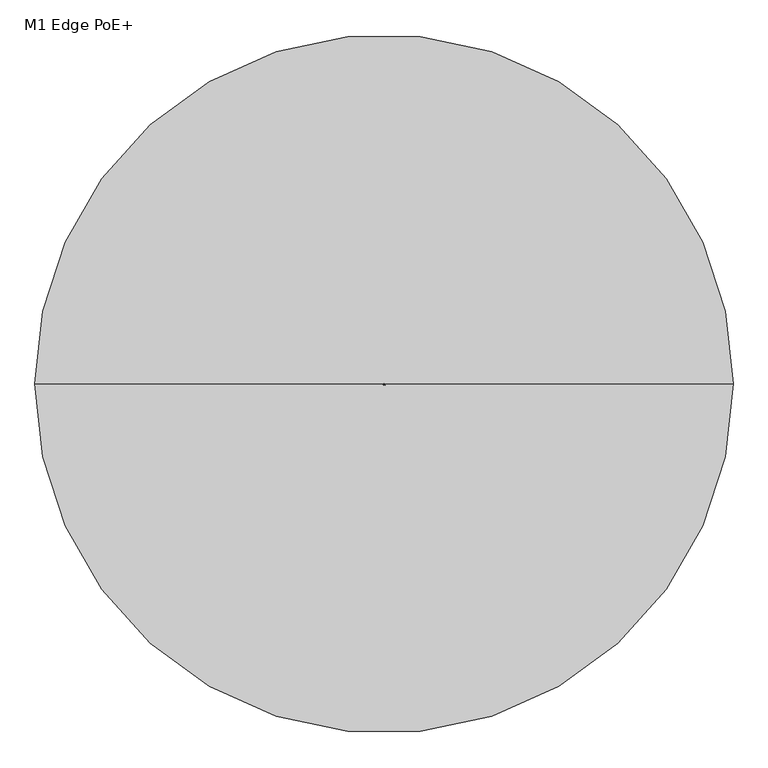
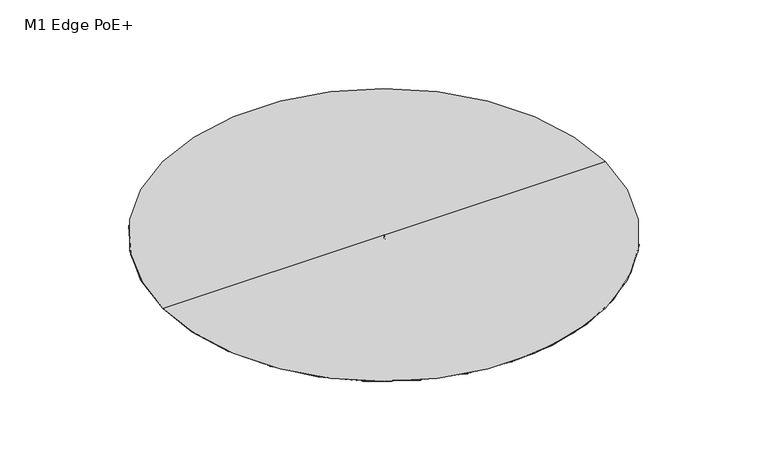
"""IFC4 building model written with IfcOpenShell, lengths in millimetres: proxy geometry, M1 Edge PoE+ : Tripod."""

from ifc_helpers import new_model, si_unit, point, frame, frame_2d, origin, origin_2d, place, context, project, spatial, polyline, circle_curve, ellipse_curve, trimmed, segment, composite_curve, outline, extrude, faceted_brep, source, transform, mapped, element, save
from ifc_brep_helpers import plane_surface, cylinder_surface, revolved_surface, advanced_brep


def m1_edge_poe_0bd1f5fe(model_context):
    return source(origin(), model_context, "Body", "SolidModel", [
        advanced_brep(
        [(0.0, 28.675, 1318.766295), (0.0, 117.675, 1318.766295), (0.0, 117.675, 1382.8178575), (0.0, 28.675, 1382.8178575), (0.0, 25.175, 1318.766295), (0.0, 121.175, 1318.766295), (0.0, 25.175, 1308.7452013), (0.0, 121.175, 1308.7452013), (0.0, 15.675, 1308.7452013), (0.0, 130.675, 1308.7452013), (0.0, 15.675, 1248.7178575), (0.0, 130.675, 1248.7178575), (0.0, 73.175, 1248.7178575), (0.0, 73.175, 1382.8178575)],
        [
            (0, 1, circle_curve(frame((0.0, 73.175, 1318.766295), z_axis=(0.0, 0.0, 1.0), x_axis=(0.0, 1.0, 0.0)), 44.5)),
            (1, 2),
            (2, 3, circle_curve(frame((0.0, 73.175, 1382.8178575), z_axis=(0.0, 0.0, -1.0), x_axis=(0.0, 1.0, 0.0)), 44.5)),
            (3, 0),
            (1, 0, circle_curve(frame((0.0, 73.175, 1318.766295), z_axis=(0.0, 0.0, 1.0), x_axis=(0.0, 1.0, 0.0)), 44.5)),
            (3, 2, circle_curve(frame((0.0, 73.175, 1382.8178575), z_axis=(0.0, 0.0, -1.0), x_axis=(0.0, 1.0, 0.0)), 44.5)),
            (4, 5, circle_curve(frame((0.0, 73.175, 1318.766295), z_axis=(0.0, 0.0, 1.0), x_axis=(0.0, 1.0, 0.0)), 48.0)),
            (5, 1),
            (0, 4),
            (5, 4, circle_curve(frame((0.0, 73.175, 1318.766295), z_axis=(0.0, 0.0, 1.0), x_axis=(0.0, 1.0, 0.0)), 48.0)),
            (6, 7, circle_curve(frame((0.0, 73.175, 1308.7452013), z_axis=(0.0, 0.0, 1.0), x_axis=(0.0, 1.0, 0.0)), 48.0)),
            (7, 5),
            (4, 6),
            (7, 6, circle_curve(frame((0.0, 73.175, 1308.7452013), z_axis=(0.0, 0.0, 1.0), x_axis=(0.0, 1.0, 0.0)), 48.0)),
            (8, 9, circle_curve(frame((0.0, 73.175, 1308.7452013), z_axis=(0.0, 0.0, 1.0), x_axis=(0.0, 1.0, 0.0)), 57.5)),
            (9, 7),
            (6, 8),
            (9, 8, circle_curve(frame((0.0, 73.175, 1308.7452013), z_axis=(0.0, 0.0, 1.0), x_axis=(0.0, 1.0, 0.0)), 57.5)),
            (10, 11, circle_curve(frame((0.0, 73.175, 1248.7178575), z_axis=(0.0, 0.0, 1.0), x_axis=(0.0, 1.0, 0.0)), 57.5)),
            (11, 9),
            (8, 10),
            (11, 10, circle_curve(frame((0.0, 73.175, 1248.7178575), z_axis=(0.0, 0.0, 1.0), x_axis=(0.0, 1.0, 0.0)), 57.5)),
            (12, 11),
            (10, 12),
            (2, 13),
            (13, 3),
        ],
        [
            cylinder_surface(frame((0.0, 73.175, 1650.6978148), z_axis=(0.0, 0.0, -1.0), x_axis=(0.0, 1.0, 0.0)), 44.5),
            plane_surface(frame((0.0, 73.175, 1318.766295), z_axis=(0.0, 0.0, 1.0), x_axis=(0.0, 1.0, 0.0))),
            cylinder_surface(frame((0.0, 73.175, 1650.6978148), z_axis=(0.0, 0.0, -1.0), x_axis=(0.0, 1.0, 0.0)), 48.0),
            plane_surface(frame((0.0, 73.175, 1308.7452013), z_axis=(0.0, 0.0, 1.0), x_axis=(0.0, 1.0, 0.0))),
            cylinder_surface(frame((0.0, 73.175, 1650.6978148), z_axis=(0.0, 0.0, -1.0), x_axis=(0.0, 1.0, 0.0)), 57.5),
            plane_surface(frame((0.0, 73.175, 1248.7178575), z_axis=(0.0, 0.0, -1.0), x_axis=(0.0, 1.0, 0.0))),
            plane_surface(frame((0.0, 73.175, 1382.8178575), z_axis=(0.0, 0.0, 1.0), x_axis=(0.0, 1.0, 0.0))),
        ],
        [
            (0, [[1, 2, 3, 4]]),
            (0, [[5, -4, 6, -2]]),
            (1, [[7, 8, -1, 9]]),
            (1, [[10, -9, -5, -8]]),
            (2, [[11, 12, -7, 13]]),
            (2, [[14, -13, -10, -12]]),
            (3, [[15, 16, -11, 17]]),
            (3, [[18, -17, -14, -16]]),
            (4, [[19, 20, -15, 21]]),
            (4, [[22, -21, -18, -20]]),
            (5, [[23, -19, 24]]),
            (5, [[-24, -22, -23]]),
            (6, [[-3, 25, 26]]),
            (6, [[-6, -26, -25]]),
        ],
    ),
        advanced_brep(
        [(70104.0, 73.175, 1347.341295), (-70104.0, 73.175, 1347.341295), (-46.2980768, 73.175, 1347.341295), (46.2980768, 73.175, 1347.341295), (70104.0, 73.175, 1267.6255661), (-70104.0, 73.175, 1267.6255661)],
        [
            (0, 1, circle_curve(frame((0.0, 73.175, 1347.341295), z_axis=(0.0, 0.0, 1.0), x_axis=(-1.0, 0.0, 0.0)), 70104.0)),
            (1, 2),
            (2, 3, circle_curve(frame((0.0, 73.175, 1347.341295), z_axis=(0.0, 0.0, -1.0), x_axis=(-1.0, 0.0, 0.0)), 46.2980768)),
            (3, 0),
            (1, 0, circle_curve(frame((0.0, 73.175, 1347.341295), z_axis=(0.0, 0.0, 1.0), x_axis=(-1.0, 0.0, 0.0)), 70104.0)),
            (3, 2, circle_curve(frame((0.0, 73.175, 1347.341295), z_axis=(0.0, 0.0, -1.0), x_axis=(-1.0, 0.0, 0.0)), 46.2980768)),
            (4, 5, circle_curve(frame((0.0, 73.175, 1267.6255661), z_axis=(0.0, 0.0, 1.0), x_axis=(-1.0, 0.0, 0.0)), 70104.0)),
            (5, 1),
            (0, 4),
            (5, 4, circle_curve(frame((0.0, 73.175, 1267.6255661), z_axis=(0.0, 0.0, 1.0), x_axis=(-1.0, 0.0, 0.0)), 70104.0)),
            (2, 5),
            (4, 3),
        ],
        [
            plane_surface(frame((0.0, 73.175, 1347.341295), z_axis=(0.0, 0.0, 1.0), x_axis=(-1.0, 0.0, 0.0))),
            cylinder_surface(frame((0.0, 73.175, 3691.1480894), z_axis=(0.0, 0.0, -1.0), x_axis=(-1.0, 0.0, 0.0)), 70104.0),
            revolved_surface(polyline([(-70104.0, 73.175, 1267.6255661), (-46.2980768, 73.175, 1347.341295)]), (0.0, 73.175, 3691.1480894), (0.0, 0.0, -1.0)),
        ],
        [
            (0, [[1, 2, 3, 4]]),
            (0, [[5, -4, 6, -2]]),
            (1, [[7, 8, -1, 9]]),
            (1, [[10, -9, -5, -8]]),
            (2, [[-3, 11, -7, 12]]),
            (2, [[-6, -12, -10, -11]]),
        ],
    ),
        extrude(outline(polyline([(70.0, 140.0), (70.0, 0.0), (-70.0, 0.0), (-70.0, 140.0), (70.0, 140.0)])), frame((0.0, 0.0, 1245.5428575), z_axis=(0.0, 0.0, 1.0), x_axis=(1.0, 0.0, 0.0)), (0.0, 0.0, 1.0), 3.175),
        extrude(outline(polyline([(47.7242188, 0.0), (47.7242188, -3.175), (-47.7242187, -3.175), (-47.7242187, 0.0), (47.7242188, 0.0)])), frame((0.0, 0.0, 1142.734375), z_axis=(0.0, 0.0, 1.0), x_axis=(1.0, 0.0, 0.0)), (0.0, 0.0, 1.0), 161.0),
        extrude(outline(polyline([(1248.7178575, 70.0), (1248.7178575, -70.0), (1233.6602876, -70.0), (1233.6602876, -22.1620361), (1182.8602876, -22.1620361), (1182.8602876, 22.1620361), (1233.6602876, 22.1620361), (1233.6602876, 70.0), (1248.7178575, 70.0)])), frame((0.0, 0.0, 0.0), z_axis=(0.0, 1.0, 0.0), x_axis=(0.0, 0.0, 1.0)), (0.0, 0.0, 1.0), 101.6),
        faceted_brep([(9.525, 24.8490611, 1264.2722463), (9.525, 12.1490611, 1264.2722463), (-9.525, 12.1490611, 1264.2722463), (-9.525, 24.8490611, 1264.2722463), (-9.525, 24.8490611, 1294.2331758), (-22.225, 24.8490611, 1294.2331758), (-22.225, 24.8490611, 1303.7581758), (22.225, 24.8490611, 1303.7581758), (22.225, 24.8490611, 1294.2331758), (9.525, 24.8490611, 1294.2331758), (-9.525, 12.1490611, 1294.2331758), (9.525, 12.1490611, 1294.2331758), (-22.225, -25.9509389, 1303.7581758), (22.225, -25.9509389, 1303.7581758), (22.225, -25.9509389, 1294.2331758), (-22.225, -25.9509389, 1294.2331758)], [[[0, 1, 2, 3]], [[0, 3, 4, 5, 6, 7, 8, 9]], [[3, 2, 10, 4]], [[2, 1, 11, 10]], [[1, 0, 9, 11]], [[7, 6, 12, 13]], [[8, 14, 15, 5, 4, 10, 11, 9]], [[12, 6, 5, 15]], [[13, 12, 15, 14]], [[7, 13, 14, 8]]]),
        advanced_brep(
        [(-128.9620474, -79.9555341, 711.0816059), (-147.5252127, -79.6744599, 715.3515466), (-45.612761, -20.8352785, 1154.5331758), (-40.5982567, -12.4408918, 1154.5331758), (-26.0587525, -20.5442891, 1154.5331758), (-31.0732567, -28.9386758, 1154.5331758), (-42.5864475, -27.8381093, 1154.5331758), (-45.4017336, -22.9618907, 1154.5331758)],
        [
            (0, 1, circle_curve(frame((-138.2436301, -79.814997, 713.2165762), z_axis=(-0.22414386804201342, -0.1294095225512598, -0.9659258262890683), x_axis=(-0.9744443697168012, 0.014754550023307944, 0.2241438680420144)), 9.525)),
            (1, 0, circle_curve(frame((-138.2436301, -79.814997, 713.2165762), z_axis=(-0.22414386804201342, -0.1294095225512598, -0.9659258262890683), x_axis=(-0.9744443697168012, 0.014754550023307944, 0.2241438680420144)), 9.525)),
            (1, 2),
            (2, 3, ellipse_curve(frame((-35.8357567, -20.6897838, 1154.5331758), z_axis=(0.0, 0.0, -1.0), x_axis=(0.8660254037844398, 0.4999999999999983, 0.0)), 9.8610056, 9.525)),
            (3, 4, ellipse_curve(frame((-35.8357567, -20.6897838, 1154.5331758), z_axis=(0.0, 0.0, -1.0), x_axis=(0.8660254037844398, 0.4999999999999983, 0.0)), 9.8610056, 9.525)),
            (4, 0),
            (4, 5, ellipse_curve(frame((-35.8357567, -20.6897838, 1154.5331758), z_axis=(0.0, 0.0, -1.0), x_axis=(0.8660254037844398, 0.4999999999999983, 0.0)), 9.8610056, 9.525)),
            (5, 6, ellipse_curve(frame((-35.8357567, -20.6897838, 1154.5331758), z_axis=(0.0, 0.0, -1.0), x_axis=(0.8660254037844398, 0.4999999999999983, 0.0)), 9.8610056, 9.525)),
            (6, 7, ellipse_curve(frame((-43.9940905, -25.4, 1119.3756435), z_axis=(-0.8660254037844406, -0.4999999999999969, 0.0), x_axis=(0.0, 0.0, 0.9999999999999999)), 36.801774, 9.525)),
            (7, 2, ellipse_curve(frame((-35.8357567, -20.6897838, 1154.5331758), z_axis=(0.0, 0.0, -1.0), x_axis=(0.8660254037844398, 0.4999999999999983, 0.0)), 9.8610056, 9.525)),
            (7, 6),
        ],
        [
            plane_surface(frame((-147.5252127, -79.6744599, 715.3515466), z_axis=(-0.2241438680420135, -0.1294095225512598, -0.9659258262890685), x_axis=(-0.014754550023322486, 0.9914814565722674, -0.12940952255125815))),
            cylinder_surface(frame((-138.2436301, -79.814997, 713.2165762), z_axis=(0.22414386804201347, 0.12940952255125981, 0.9659258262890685), x_axis=(-0.9744443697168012, 0.014754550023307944, 0.2241438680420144)), 9.525),
            plane_surface(frame((-28.3470453, -1.7014774, 1154.5331758), z_axis=(0.0, 0.0, 1.0000000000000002), x_axis=(0.4999999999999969, -0.8660254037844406, 0.0))),
            plane_surface(frame((-48.7565905, -17.151108, 1183.1081758), z_axis=(0.8660254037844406, 0.4999999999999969, 0.0), x_axis=(0.0, 0.0, -1.0))),
        ],
        [
            (0, [[1, 2]]),
            (1, [[-2, 3, 4, 5, 6]]),
            (1, [[-1, -6, 7, 8, 9, 10, -3]]),
            (2, [[11, -8, -7, -5, -4, -10]]),
            (3, [[-11, -9]]),
        ],
    ),
        advanced_brep(
        [(133.7245474, -71.7066422, 711.0816059), (142.7627127, -87.9233519, 715.3515466), (40.850261, -29.0841705, 1154.5331758), (31.0732567, -28.9386758, 1154.5331758), (30.8212525, -12.2953971, 1154.5331758), (40.5982567, -12.4408918, 1154.5331758), (45.4017336, -22.9618907, 1154.5331758), (42.5864475, -27.8381093, 1154.5331758)],
        [
            (0, 1, circle_curve(frame((138.2436301, -79.814997, 713.2165762), z_axis=(0.22414386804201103, -0.12940952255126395, -0.9659258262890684), x_axis=(0.4744443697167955, -0.8512708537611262, 0.2241438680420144)), 9.525)),
            (1, 0, circle_curve(frame((138.2436301, -79.814997, 713.2165762), z_axis=(0.22414386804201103, -0.12940952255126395, -0.9659258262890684), x_axis=(0.4744443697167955, -0.8512708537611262, 0.2241438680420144)), 9.525)),
            (1, 2),
            (2, 3, ellipse_curve(frame((35.8357567, -20.6897838, 1154.5331758), z_axis=(0.0, 0.0, -1.0), x_axis=(-0.8660254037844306, 0.5000000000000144, 0.0)), 9.8610056, 9.525)),
            (3, 4, ellipse_curve(frame((35.8357567, -20.6897838, 1154.5331758), z_axis=(0.0, 0.0, -1.0), x_axis=(-0.8660254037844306, 0.5000000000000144, 0.0)), 9.8610056, 9.525)),
            (4, 0),
            (4, 5, ellipse_curve(frame((35.8357567, -20.6897838, 1154.5331758), z_axis=(0.0, 0.0, -1.0), x_axis=(-0.8660254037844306, 0.5000000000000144, 0.0)), 9.8610056, 9.525)),
            (5, 6, ellipse_curve(frame((35.8357567, -20.6897838, 1154.5331758), z_axis=(0.0, 0.0, -1.0), x_axis=(-0.8660254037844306, 0.5000000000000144, 0.0)), 9.8610056, 9.525)),
            (6, 7, ellipse_curve(frame((43.9940905, -25.4, 1119.3756435), z_axis=(0.866025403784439, -0.49999999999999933, 0.0), x_axis=(0.0, 0.0, 1.0)), 36.801774, 9.525)),
            (7, 2, ellipse_curve(frame((35.8357567, -20.6897838, 1154.5331758), z_axis=(0.0, 0.0, -1.0), x_axis=(-0.8660254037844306, 0.5000000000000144, 0.0)), 9.8610056, 9.525)),
            (7, 6),
        ],
        [
            plane_surface(frame((142.7627127, -87.9233519, 715.3515466), z_axis=(0.22414386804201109, -0.12940952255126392, -0.9659258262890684), x_axis=(-0.8512708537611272, -0.5085185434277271, -0.12940952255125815))),
            cylinder_surface(frame((138.2436301, -79.814997, 713.2165762), z_axis=(-0.22414386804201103, 0.12940952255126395, 0.9659258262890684), x_axis=(0.4744443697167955, -0.8512708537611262, 0.2241438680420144)), 9.525),
            plane_surface(frame((15.6470453, -23.6985226, 1154.5331758), z_axis=(0.0, 0.0, 1.0000000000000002), x_axis=(0.4999999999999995, 0.866025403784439, 0.0))),
            plane_surface(frame((39.2315905, -33.648892, 1183.1081758), z_axis=(-0.866025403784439, 0.49999999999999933, 0.0), x_axis=(0.0, 0.0, -1.0))),
        ],
        [
            (0, [[1, 2]]),
            (1, [[-2, 3, 4, 5, 6]]),
            (1, [[-1, -6, 7, 8, 9, 10, -3]]),
            (2, [[11, -8, -7, -5, -4, -10]]),
            (3, [[-11, -9]]),
        ],
    ),
        advanced_brep(
        [(-4.7625, 151.6621763, 711.0816059), (4.7625, 167.5978119, 715.3515466), (4.7625, 49.919449, 1154.5331758), (9.525, 41.3795676, 1154.5331758), (-4.7625, 32.8396862, 1154.5331758), (-9.525, 41.3795676, 1154.5331758), (-2.8152861, 50.8, 1154.5331758), (2.8152861, 50.8, 1154.5331758)],
        [
            (0, 1, circle_curve(frame((0.0, 159.6299941, 713.2165762), z_axis=(0.0, 0.2588190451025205, -0.9659258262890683), x_axis=(0.4999999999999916, 0.8365163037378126, 0.22414386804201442)), 9.525)),
            (1, 0, circle_curve(frame((0.0, 159.6299941, 713.2165762), z_axis=(0.0, 0.2588190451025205, -0.9659258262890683), x_axis=(0.4999999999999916, 0.8365163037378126, 0.22414386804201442)), 9.525)),
            (1, 2),
            (2, 3, ellipse_curve(frame((0.0, 41.3795676, 1154.5331758), z_axis=(0.0, 0.0, -1.0), x_axis=(0.0, -1.0, 0.0)), 9.8610056, 9.525)),
            (3, 4, ellipse_curve(frame((0.0, 41.3795676, 1154.5331758), z_axis=(0.0, 0.0, -1.0), x_axis=(0.0, -1.0, 0.0)), 9.8610056, 9.525)),
            (4, 0),
            (4, 5, ellipse_curve(frame((0.0, 41.3795676, 1154.5331758), z_axis=(0.0, 0.0, -1.0), x_axis=(0.0, -1.0, 0.0)), 9.8610056, 9.525)),
            (5, 6, ellipse_curve(frame((0.0, 41.3795676, 1154.5331758), z_axis=(0.0, 0.0, -1.0), x_axis=(0.0, -1.0, 0.0)), 9.8610056, 9.525)),
            (6, 7, ellipse_curve(frame((0.0, 50.8, 1119.3756435), z_axis=(0.0, 1.0, 0.0), x_axis=(0.0, 0.0, 0.9999999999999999)), 36.801774, 9.525)),
            (7, 2, ellipse_curve(frame((0.0, 41.3795676, 1154.5331758), z_axis=(0.0, 0.0, -1.0), x_axis=(0.0, -1.0, 0.0)), 9.8610056, 9.525)),
            (7, 6),
        ],
        [
            plane_surface(frame((4.7625, 167.5978119, 715.3515466), z_axis=(0.0, 0.2588190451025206, -0.9659258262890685), x_axis=(0.8660254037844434, -0.4829629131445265, -0.1294095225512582))),
            cylinder_surface(frame((0.0, 159.6299941, 713.2165762), z_axis=(0.0, -0.2588190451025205, 0.9659258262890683), x_axis=(0.4999999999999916, 0.8365163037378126, 0.22414386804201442)), 9.525),
            plane_surface(frame((-12.7, 50.8, 1154.5331758), z_axis=(0.0, 0.0, 1.0), x_axis=(1.0, 0.0, 0.0))),
            plane_surface(frame((9.525, 50.8, 1183.1081758), z_axis=(0.0, -1.0, 0.0), x_axis=(0.0, 0.0, -1.0))),
        ],
        [
            (0, [[1, 2]]),
            (1, [[-2, 3, 4, 5, 6]]),
            (1, [[-1, -6, 7, 8, 9, 10, -3]]),
            (2, [[11, -8, -7, -5, -4, -10]]),
            (3, [[-11, -9]]),
        ],
    ),
        advanced_brep(
        [(-37.6440905, -36.3985226, 1186.2831758), (-15.6470453, -23.6985226, 1186.2831758), (15.6470453, -23.6985226, 1186.2831758), (37.6440905, -36.3985226, 1186.2831758), (50.3440905, -14.4014774, 1186.2831758), (28.3470453, -1.7014774, 1186.2831758), (12.7, 25.4, 1186.2831758), (12.7, 50.8, 1186.2831758), (-12.7, 50.8, 1186.2831758), (-12.7, 25.4, 1186.2831758), (-28.3470453, -1.7014774, 1186.2831758), (-50.3440905, -14.4014774, 1186.2831758), (-37.6440905, -36.3985226, 1154.5331758), (-50.3440905, -14.4014774, 1154.5331758), (-28.3470453, -1.7014774, 1154.5331758), (-12.7, 25.4, 1154.5331758), (-12.7, 50.8, 1154.5331758), (-9.525, 50.8, 1154.5331758), (-9.525, 25.4, 1154.5331758), (9.525, 25.4, 1154.5331758), (9.525, 50.8, 1154.5331758), (12.7, 50.8, 1154.5331758), (12.7, 25.4, 1154.5331758), (28.3470453, -1.7014774, 1154.5331758), (50.3440905, -14.4014774, 1154.5331758), (37.6440905, -36.3985226, 1154.5331758), (15.6470453, -23.6985226, 1154.5331758), (-15.6470453, -23.6985226, 1154.5331758), (-14.2875, 0.0, 1154.5331758), (14.2875, 0.0, 1154.5331758), (9.525, 50.8, 1183.1081758), (-9.525, 50.8, 1183.1081758), (9.525, 25.4, 1183.1081758), (-9.525, 25.4, 1183.1081758), (-14.2875, 0.0, 1129.1331758), (14.2875, 0.0, 1129.1331758)],
        [
            (0, 1),
            (1, 2),
            (2, 3),
            (3, 4),
            (4, 5),
            (5, 6),
            (6, 7),
            (7, 8),
            (8, 9),
            (9, 10),
            (10, 11),
            (11, 0),
            (12, 13),
            (13, 14),
            (14, 15),
            (15, 16),
            (16, 17),
            (17, 18),
            (18, 19),
            (19, 20),
            (20, 21),
            (21, 22),
            (22, 23),
            (23, 24),
            (24, 25),
            (25, 26),
            (26, 27),
            (27, 12),
            (28, 29, circle_curve(frame((0.0, 0.0, 1154.5331758), z_axis=(0.0, 0.0, 1.0), x_axis=(1.0, 0.0, 0.0)), 14.2875)),
            (29, 28, circle_curve(frame((0.0, 0.0, 1154.5331758), z_axis=(0.0, 0.0, 1.0), x_axis=(1.0, 0.0, 0.0)), 14.2875)),
            (0, 12),
            (27, 1),
            (26, 2),
            (25, 3),
            (24, 4),
            (23, 5),
            (22, 6),
            (21, 7),
            (20, 30),
            (30, 31),
            (31, 17),
            (16, 8),
            (15, 9),
            (14, 10),
            (13, 11),
            (30, 32),
            (32, 33),
            (33, 31),
            (33, 18),
            (32, 19),
            (34, 35, circle_curve(frame((0.0, 0.0, 1129.1331758), z_axis=(0.0, 0.0, -1.0), x_axis=(1.0, 0.0, 0.0)), 14.2875)),
            (35, 34, circle_curve(frame((0.0, 0.0, 1129.1331758), z_axis=(0.0, 0.0, -1.0), x_axis=(1.0, 0.0, 0.0)), 14.2875)),
            (35, 29),
            (28, 34),
        ],
        [
            plane_surface(frame((6.35, -10.9985226, 1186.2831758), z_axis=(0.0, 0.0, 1.0), x_axis=(0.8660254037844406, 0.4999999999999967, 0.0))),
            plane_surface(frame((6.35, -10.9985226, 1154.5331758), z_axis=(0.0, 0.0, -1.0), x_axis=(-0.8660254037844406, -0.4999999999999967, 0.0))),
            plane_surface(frame((-37.6440905, -36.3985226, 1186.2831758), z_axis=(0.4999999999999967, -0.8660254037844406, 0.0), x_axis=(0.0, 0.0, -1.0))),
            plane_surface(frame((-15.6470453, -23.6985226, 1186.2831758), z_axis=(0.0, -1.0, 0.0), x_axis=(0.0, 0.0, -1.0))),
            plane_surface(frame((15.6470453, -23.6985226, 1186.2831758), z_axis=(-0.49999999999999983, -0.8660254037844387, 0.0), x_axis=(0.0, 0.0, -1.0))),
            plane_surface(frame((37.6440905, -36.3985226, 1186.2831758), z_axis=(0.8660254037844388, -0.49999999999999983, 0.0), x_axis=(0.0, 0.0, -1.0))),
            plane_surface(frame((50.3440905, -14.4014774, 1186.2831758), z_axis=(0.4999999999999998, 0.8660254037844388, 0.0), x_axis=(0.0, 0.0, -1.0))),
            plane_surface(frame((28.3470453, -1.7014774, 1186.2831758), z_axis=(0.8660254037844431, 0.4999999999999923, 0.0), x_axis=(0.0, 0.0, -1.0))),
            plane_surface(frame((12.7, 25.4, 1186.2831758), z_axis=(1.0, 0.0, 0.0), x_axis=(0.0, 0.0, -1.0))),
            plane_surface(frame((12.7, 50.8, 1186.2831758), z_axis=(0.0, 1.0, 0.0), x_axis=(0.0, 0.0, -1.0))),
            plane_surface(frame((-12.7, 50.8, 1186.2831758), z_axis=(-1.0, 0.0, 0.0), x_axis=(0.0, 0.0, -1.0))),
            plane_surface(frame((-12.7, 25.4, 1186.2831758), z_axis=(-0.8660254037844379, 0.5000000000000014, 0.0), x_axis=(0.0, 0.0, -1.0))),
            plane_surface(frame((-28.3470453, -1.7014774, 1186.2831758), z_axis=(-0.4999999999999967, 0.8660254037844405, 0.0), x_axis=(0.0, 0.0, -1.0))),
            plane_surface(frame((-50.3440905, -14.4014774, 1186.2831758), z_axis=(-0.8660254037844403, -0.49999999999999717, 0.0), x_axis=(0.0, 0.0, -1.0))),
            plane_surface(frame((-12.7, 50.8, 1183.1081758), z_axis=(0.0, 0.0, -1.0), x_axis=(-1.0, 0.0, 0.0))),
            plane_surface(frame((-9.525, 50.8, 1183.1081758), z_axis=(1.0, 0.0, 0.0), x_axis=(0.0, 0.0, -1.0))),
            plane_surface(frame((-9.525, 25.4, 1183.1081758), z_axis=(0.0, 1.0, 0.0), x_axis=(0.0, 0.0, -1.0))),
            plane_surface(frame((9.525, 25.4, 1183.1081758), z_axis=(-1.0, 0.0, 0.0), x_axis=(0.0, 0.0, -1.0))),
            plane_surface(frame((14.2875, 0.0, 1129.1331758), z_axis=(0.0, 0.0, -1.0), x_axis=(0.0, -1.0, 0.0))),
            cylinder_surface(frame((0.0, 0.0, 1129.1331758), z_axis=(0.0, 0.0, 1.0), x_axis=(1.0, 0.0, 0.0)), 14.2875),
        ],
        [
            (0, [[1, 2, 3, 4, 5, 6, 7, 8, 9, 10, 11, 12]]),
            (1, [[13, 14, 15, 16, 17, 18, 19, 20, 21, 22, 23, 24, 25, 26, 27, 28], [29, 30]]),
            (2, [[-1, 31, -28, 32]]),
            (3, [[-2, -32, -27, 33]]),
            (4, [[-3, -33, -26, 34]]),
            (5, [[-4, -34, -25, 35]]),
            (6, [[-5, -35, -24, 36]]),
            (7, [[-6, -36, -23, 37]]),
            (8, [[-7, -37, -22, 38]]),
            (9, [[-8, -38, -21, 39, 40, 41, -17, 42]]),
            (10, [[-9, -42, -16, 43]]),
            (11, [[-10, -43, -15, 44]]),
            (12, [[-11, -44, -14, 45]]),
            (13, [[-12, -45, -13, -31]]),
            (14, [[46, 47, 48, -40]]),
            (15, [[-48, 49, -18, -41]]),
            (16, [[-47, 50, -19, -49]]),
            (17, [[-46, -39, -20, -50]]),
            (18, [[51, 52]]),
            (19, [[-52, 53, -29, 54]]),
            (19, [[-51, -54, -30, -53]]),
        ],
    ),
        extrude(outline(composite_curve([segment(trimmed(circle_curve(origin_2d(), 6.35), [point((0.0, -6.3500001))], [point((0.0, 6.3499999))], False, "CARTESIAN"), True, "CONTINUOUS"), segment(trimmed(circle_curve(origin_2d(), 6.35), [point((0.0, 6.3499999))], [point((0.0, -6.3500001))], False, "CARTESIAN"), True, "CONTINUOUS")], self_intersect=False)), frame((-12.7, -181.9305742, 1195.5083637), z_axis=(0.0, 0.9063077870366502, 0.42261826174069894), x_axis=(1.0, 0.0, 0.0)), (0.0, 0.0, 1.0), 63.5),
        extrude(outline(composite_curve([segment(trimmed(circle_curve(origin_2d(), 3.175), [point((0.0, -3.1750001))], [point((0.0, 3.1749999))], False, "CARTESIAN"), True, "CONTINUOUS"), segment(trimmed(circle_curve(origin_2d(), 3.175), [point((0.0, 3.1749999))], [point((0.0, -3.1750001))], False, "CARTESIAN"), True, "CONTINUOUS")], self_intersect=False)), frame((-12.7, -124.3800297, 1222.3446233), z_axis=(0.0, 0.9063077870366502, 0.42261826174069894), x_axis=(1.0, 0.0, 0.0)), (0.0, 0.0, 1.0), 114.3),
        extrude(outline(composite_curve([segment(trimmed(circle_curve(frame_2d((0.0, 1262.4831758)), 15.875), [point((15.875, 1262.4831758))], [point((-15.875, 1262.4831758))], False, "CARTESIAN"), True, "CONTINUOUS"), segment(trimmed(circle_curve(frame_2d((0.0, 1262.4831758)), 15.875), [point((-15.875, 1262.4831758))], [point((15.875, 1262.4831758))], False, "CARTESIAN"), True, "CONTINUOUS")], self_intersect=False)), frame((-25.4, 0.0, 0.0), z_axis=(1.0, 0.0, 0.0), x_axis=(0.0, 1.0, 0.0)), (0.0, 0.0, 1.0), 50.8),
        extrude(outline(composite_curve([segment(polyline([(-22.1308627, 1276.7024179), (3.170645, 1284.4362784)]), True, "CONTINUOUS"), segment(trimmed(circle_curve(frame_2d((4.6640088, 1264.4272487)), 20.0646806), [point((3.170645, 1284.4362784))], [point((23.9771069, 1269.867437))], False, "CARTESIAN"), True, "CONTINUOUS"), segment(trimmed(circle_curve(frame_2d((1.5185723, 1263.5412299)), 23.3325239), [point((23.9771069, 1269.867437))], [point((0.0, 1240.2581758))], False, "CARTESIAN"), True, "CONTINUOUS"), segment(trimmed(circle_curve(frame_2d((1.6938352, 1266.2283953)), 26.0253987), [point((0.0, 1240.2581758))], [point((-22.1308627, 1255.7543727))], False, "CARTESIAN"), True, "CONTINUOUS"), segment(polyline([(-22.1308627, 1255.7543727), (-22.1308627, 1276.7024179)]), True, "CONTINUOUS")], self_intersect=False), holes=[composite_curve([segment(trimmed(circle_curve(frame_2d((0.0, 1262.4831758)), 15.875), [point((15.875, 1262.4831758))], [point((-15.875, 1262.4831758))], True, "CARTESIAN"), True, "CONTINUOUS"), segment(trimmed(circle_curve(frame_2d((0.0, 1262.4831758)), 15.875), [point((-15.875, 1262.4831758))], [point((15.875, 1262.4831758))], True, "CARTESIAN"), True, "CONTINUOUS")], self_intersect=False)]), frame((-25.4, 0.0, 0.0), z_axis=(1.0, 0.0, 0.0), x_axis=(0.0, 1.0, 0.0)), (0.0, 0.0, 1.0), 50.8),
        extrude(outline(composite_curve([segment(trimmed(circle_curve(origin_2d(), 14.2875), [point((-14.2875, 0.0))], [point((14.2875, 0.0))], False, "CARTESIAN"), True, "CONTINUOUS"), segment(trimmed(circle_curve(origin_2d(), 14.2875), [point((14.2875, 0.0))], [point((-14.2875, 0.0))], False, "CARTESIAN"), True, "CONTINUOUS")], self_intersect=False), holes=[composite_curve([segment(trimmed(circle_curve(origin_2d(), 11.1125), [point((-11.1125, 0.0))], [point((11.1125, 0.0))], True, "CARTESIAN"), True, "CONTINUOUS"), segment(trimmed(circle_curve(origin_2d(), 11.1125), [point((11.1125, 0.0))], [point((-11.1125, 0.0))], True, "CARTESIAN"), True, "CONTINUOUS")], self_intersect=False)]), frame((0.0, 0.0, 1227.5581758), z_axis=(0.0, 0.0, 1.0), x_axis=(1.0, 0.0, 0.0)), (0.0, 0.0, 1.0), 6.35),
        extrude(outline(composite_curve([segment(trimmed(circle_curve(origin_2d(), 11.1125), [point((-11.1125, 0.0))], [point((11.1125, 0.0))], False, "CARTESIAN"), True, "CONTINUOUS"), segment(trimmed(circle_curve(origin_2d(), 11.1125), [point((11.1125, 0.0))], [point((-11.1125, 0.0))], False, "CARTESIAN"), True, "CONTINUOUS")], self_intersect=False)), frame((0.0, 0.0, 748.1331758), z_axis=(0.0, 0.0, 1.0), x_axis=(1.0, 0.0, 0.0)), (0.0, 0.0, 1.0), 508.0),
        extrude(outline(composite_curve([segment(trimmed(circle_curve(frame_2d((0.0, -6.3499999)), 6.35), [point((0.0, -12.7))], [point((0.0, 0.0))], False, "CARTESIAN"), True, "CONTINUOUS"), segment(trimmed(circle_curve(frame_2d((0.0, -6.3499999)), 6.35), [point((0.0, 0.0))], [point((0.0, -12.7))], False, "CARTESIAN"), True, "CONTINUOUS")], self_intersect=False)), frame((308.7535732, -171.9089586, 2.537363), z_axis=(-0.22414386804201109, 0.129409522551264, 0.9659258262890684), x_axis=(0.47444436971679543, -0.8512708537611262, 0.22414386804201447)), (0.0, 0.0, 1.0), 228.6),
        extrude(outline(composite_curve([segment(trimmed(circle_curve(frame_2d((1e-07, -9.525)), 9.525), [point((0.0, -19.0500001))], [point((0.0, 0.0))], False, "CARTESIAN"), True, "CONTINUOUS"), segment(trimmed(circle_curve(frame_2d((1e-07, -9.525)), 9.525), [point((0.0, 0.0))], [point((0.0, -19.0500001))], False, "CARTESIAN"), True, "CONTINUOUS")], self_intersect=False)), frame((256.6277977, -153.6633894, 224.6612268), z_axis=(-0.2241438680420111, 0.12940952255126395, 0.9659258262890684), x_axis=(-0.8512708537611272, -0.5085185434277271, -0.12940952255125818)), (0.0, 0.0, 1.0), 25.4),
        extrude(outline(composite_curve([segment(trimmed(circle_curve(frame_2d((1e-07, -7.9375)), 7.9375), [point((0.0, -15.875))], [point((0.0, 0.0))], False, "CARTESIAN"), True, "CONTINUOUS"), segment(trimmed(circle_curve(frame_2d((1e-07, -7.9375)), 7.9375), [point((0.0, 0.0))], [point((0.0, -15.875))], False, "CARTESIAN"), True, "CONTINUOUS")], self_intersect=False)), frame((239.6584984, -146.3043986, 246.0335844), z_axis=(-0.22414386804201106, 0.12940952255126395, 0.9659258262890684), x_axis=(-0.4744443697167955, 0.8512708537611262, -0.22414386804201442)), (0.0, 0.0, 1.0), 457.2),
        extrude(outline(composite_curve([segment(trimmed(circle_curve(frame_2d((-1e-07, -11.1125)), 11.1125), [point((0.0, -22.2250001))], [point((0.0, 0.0))], False, "CARTESIAN"), True, "CONTINUOUS"), segment(trimmed(circle_curve(frame_2d((-1e-07, -11.1125)), 11.1125), [point((0.0, 0.0))], [point((0.0, -22.2250001))], False, "CARTESIAN"), True, "CONTINUOUS")], self_intersect=False)), frame((138.6646213, -73.6422515, 686.1912615), z_axis=(-0.22414386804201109, 0.12940952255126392, 0.9659258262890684), x_axis=(0.8512708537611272, 0.5085185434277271, 0.12940952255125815)), (0.0, 0.0, 1.0), 25.4),
        extrude(outline(composite_curve([segment(trimmed(circle_curve(frame_2d((0.0, -6.35)), 6.35), [point((0.0, -12.7))], [point((0.0, 0.0))], False, "CARTESIAN"), True, "CONTINUOUS"), segment(trimmed(circle_curve(frame_2d((0.0, -6.35)), 6.35), [point((0.0, 0.0))], [point((0.0, -12.7))], False, "CARTESIAN"), True, "CONTINUOUS")], self_intersect=False)), frame((-303.2543119, -181.4339586, 2.537363), z_axis=(0.2241438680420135, 0.1294095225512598, 0.9659258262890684), x_axis=(-0.9744443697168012, 0.014754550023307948, 0.22414386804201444)), (0.0, 0.0, 1.0), 228.6),
        extrude(outline(composite_curve([segment(trimmed(circle_curve(frame_2d((0.0, -9.5250001)), 9.525), [point((0.0, -19.0500001))], [point((0.0, 0.0))], False, "CARTESIAN"), True, "CONTINUOUS"), segment(trimmed(circle_curve(frame_2d((0.0, -9.5250001)), 9.525), [point((0.0, 0.0))], [point((0.0, -19.0500001))], False, "CARTESIAN"), True, "CONTINUOUS")], self_intersect=False)), frame((-261.3902977, -145.4144974, 224.6612268), z_axis=(0.22414386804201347, 0.12940952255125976, 0.9659258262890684), x_axis=(-0.014754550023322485, 0.9914814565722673, -0.12940952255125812)), (0.0, 0.0, 1.0), 25.4),
        extrude(outline(composite_curve([segment(trimmed(circle_curve(frame_2d((0.0, -7.9374999)), 7.9375), [point((0.0, -15.875))], [point((0.0, 0.0))], False, "CARTESIAN"), True, "CONTINUOUS"), segment(trimmed(circle_curve(frame_2d((0.0, -7.9374999)), 7.9375), [point((0.0, 0.0))], [point((0.0, -15.875))], False, "CARTESIAN"), True, "CONTINUOUS")], self_intersect=False)), frame((-246.532575, -134.3981486, 246.0335844), z_axis=(0.22414386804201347, 0.1294095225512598, 0.9659258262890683), x_axis=(0.9744443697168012, -0.014754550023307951, -0.22414386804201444)), (0.0, 0.0, 1.0), 457.2),
        extrude(outline(composite_curve([segment(trimmed(circle_curve(frame_2d((0.0, -11.1124999)), 11.1125), [point((1e-07, -22.225))], [point((0.0, 0.0))], False, "CARTESIAN"), True, "CONTINUOUS"), segment(trimmed(circle_curve(frame_2d((0.0, -11.1124999)), 11.1125), [point((0.0, 0.0))], [point((1e-07, -22.225))], False, "CARTESIAN"), True, "CONTINUOUS")], self_intersect=False)), frame((-133.1083713, -83.2659588, 686.1912615), z_axis=(0.22414386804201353, 0.12940952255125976, 0.9659258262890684), x_axis=(0.014754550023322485, -0.9914814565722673, 0.12940952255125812)), (0.0, 0.0, 1.0), 25.4),
        extrude(outline(composite_curve([segment(trimmed(circle_curve(frame_2d((0.0, -6.35)), 6.35), [point((0.0, -12.7))], [point((0.0, 0.0))], False, "CARTESIAN"), True, "CONTINUOUS"), segment(trimmed(circle_curve(frame_2d((0.0, -6.35)), 6.35), [point((0.0, 0.0))], [point((0.0, -12.7))], False, "CARTESIAN"), True, "CONTINUOUS")], self_intersect=False)), frame((-5.4992613, 353.3429172, 2.537363), z_axis=(0.0, -0.25881904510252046, 0.9659258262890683), x_axis=(0.49999999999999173, 0.8365163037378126, 0.2241438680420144)), (0.0, 0.0, 1.0), 228.6),
        extrude(outline(composite_curve([segment(trimmed(circle_curve(frame_2d((0.0, -9.525)), 9.525), [point((0.0, -19.05))], [point((0.0, 0.0))], False, "CARTESIAN"), True, "CONTINUOUS"), segment(trimmed(circle_curve(frame_2d((0.0, -9.525)), 9.525), [point((0.0, 0.0))], [point((0.0, -19.05))], False, "CARTESIAN"), True, "CONTINUOUS")], self_intersect=False)), frame((4.7625, 299.0778868, 224.6612268), z_axis=(0.0, -0.2588190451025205, 0.9659258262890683), x_axis=(0.8660254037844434, -0.48296291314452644, -0.1294095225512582)), (0.0, 0.0, 1.0), 25.4),
        extrude(outline(composite_curve([segment(trimmed(circle_curve(frame_2d((0.0, -7.9374999)), 7.9375), [point((-1e-07, -15.8749999))], [point((0.0, 0.0))], False, "CARTESIAN"), True, "CONTINUOUS"), segment(trimmed(circle_curve(frame_2d((0.0, -7.9374999)), 7.9375), [point((0.0, 0.0))], [point((-1e-07, -15.8749999))], False, "CARTESIAN"), True, "CONTINUOUS")], self_intersect=False)), frame((6.8740766, 280.7025471, 246.0335844), z_axis=(0.0, -0.2588190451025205, 0.9659258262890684), x_axis=(-0.49999999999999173, -0.8365163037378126, -0.22414386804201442)), (0.0, 0.0, 1.0), 457.2),
        extrude(outline(composite_curve([segment(trimmed(circle_curve(frame_2d((0.0, -11.1125)), 11.1125), [point((0.0, -22.225))], [point((0.0, 0.0))], False, "CARTESIAN"), True, "CONTINUOUS"), segment(trimmed(circle_curve(frame_2d((0.0, -11.1125)), 11.1125), [point((0.0, 0.0))], [point((0.0, -22.225))], False, "CARTESIAN"), True, "CONTINUOUS")], self_intersect=False)), frame((-5.55625, 156.9082104, 686.1912615), z_axis=(0.0, -0.2588190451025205, 0.9659258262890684), x_axis=(-0.8660254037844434, 0.48296291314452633, 0.12940952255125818)), (0.0, 0.0, 1.0), 25.4),
        extrude(outline(composite_curve([segment(trimmed(circle_curve(frame_2d((19.05, 1154.5331758)), 4.7625), [point((14.2875, 1154.5331758))], [point((23.8125, 1154.5331758))], False, "CARTESIAN"), True, "CONTINUOUS"), segment(trimmed(circle_curve(frame_2d((19.05, 1154.5331758)), 4.7625), [point((23.8125, 1154.5331758))], [point((14.2875, 1154.5331758))], False, "CARTESIAN"), True, "CONTINUOUS")], self_intersect=False)), frame((80.5454646, 0.0, 0.0), z_axis=(1.0, 0.0, 0.0), x_axis=(0.0, 1.0, 0.0)), (0.0, 0.0, 1.0), 25.4),
        extrude(outline(composite_curve([segment(trimmed(circle_curve(origin_2d(), 3.175), [point((0.0, -3.175))], [point((0.0, 3.175))], False, "CARTESIAN"), True, "CONTINUOUS"), segment(trimmed(circle_curve(origin_2d(), 3.175), [point((0.0, 3.175))], [point((0.0, -3.175))], False, "CARTESIAN"), True, "CONTINUOUS")], self_intersect=False)), frame((83.0012806, 19.05, 1154.0818952), z_axis=(-0.7071067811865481, 0.0, 0.707106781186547), x_axis=(0.0, 1.0, 0.0)), (0.0, 0.0, 1.0), 63.5),
        extrude(outline(composite_curve([segment(trimmed(circle_curve(frame_2d((19.05, 1198.9831758)), 4.7625), [point((14.2875, 1198.9831758))], [point((23.8125, 1198.9831758))], False, "CARTESIAN"), True, "CONTINUOUS"), segment(trimmed(circle_curve(frame_2d((19.05, 1198.9831758)), 4.7625), [point((23.8125, 1198.9831758))], [point((14.2875, 1198.9831758))], False, "CARTESIAN"), True, "CONTINUOUS")], self_intersect=False)), frame((19.05, 0.0, 0.0), z_axis=(1.0, 0.0, 0.0), x_axis=(0.0, 1.0, 0.0)), (0.0, 0.0, 1.0), 25.4),
        extrude(outline(composite_curve([segment(trimmed(circle_curve(frame_2d((19.05, 1198.9831758)), 6.35), [point((25.4, 1198.9831758))], [point((12.7, 1198.9831758))], False, "CARTESIAN"), True, "CONTINUOUS"), segment(trimmed(circle_curve(frame_2d((19.05, 1198.9831758)), 6.35), [point((12.7, 1198.9831758))], [point((25.4, 1198.9831758))], False, "CARTESIAN"), True, "CONTINUOUS")], self_intersect=False)), frame((0.0, 0.0, 0.0), z_axis=(1.0, 0.0, 0.0), x_axis=(0.0, 1.0, 0.0)), (0.0, 0.0, 1.0), 19.05),
        extrude(outline(composite_curve([segment(trimmed(circle_curve(frame_2d((0.0, 25.4)), 6.35), [point((-5.7416346, 28.112219))], [point((5.7431634, 28.1089803))], False, "CARTESIAN"), True, "CONTINUOUS"), segment(polyline([(5.7431634, 28.1089803), (22.2394185, -6.8127809)]), True, "CONTINUOUS"), segment(trimmed(circle_curve(frame_2d((16.4977839, -9.525)), 6.35), [point((22.2394185, -6.8127809))], [point((16.4977839, -15.875))], False, "CARTESIAN"), True, "CONTINUOUS"), segment(polyline([(16.4977839, -15.875), (-16.4977839, -15.875)]), True, "CONTINUOUS"), segment(trimmed(circle_curve(frame_2d((-16.4977839, -9.525)), 6.35), [point((-16.4977839, -15.875))], [point((-22.2394186, -6.812781))], False, "CARTESIAN"), True, "CONTINUOUS"), segment(polyline([(-22.2394186, -6.812781), (-5.7416346, 28.112219)]), True, "CONTINUOUS")], self_intersect=False)), frame((0.0, 0.0, 1186.2831758), z_axis=(0.0, 0.0, 1.0), x_axis=(1.0, 0.0, 0.0)), (0.0, 0.0, 1.0), 25.4),
    ])


if __name__ == "__main__":
    model = new_model("IFC4")
    model_context = context("Model", 3, world=origin())
    ifc_project = project(units=[si_unit("LENGTHUNIT", "METRE", prefix="MILLI")], contexts=[model_context])
    site = spatial("IfcSite", under=ifc_project)
    building = spatial("IfcBuilding", under=site)
    placement = place(None, origin())
    m1_edge_poe_shape = m1_edge_poe_0bd1f5fe(model_context)
    element("IfcBuildingElementProxy", 1, Name="M1 Edge PoE+ : Tripod", ObjectType="M1 Edge PoE+ : Tripod", at=placement, inside=building, context=model_context, shape_type="MappedRepresentation", body=[
        mapped(m1_edge_poe_shape, transform((0.0, 0.0, 0.0), x_axis=(1.0, 0.0, 0.0), y_axis=(0.0, 1.0, 0.0), z_axis=(0.0, 0.0, 1.0))),
    ])
    save(model, "model.ifc")
